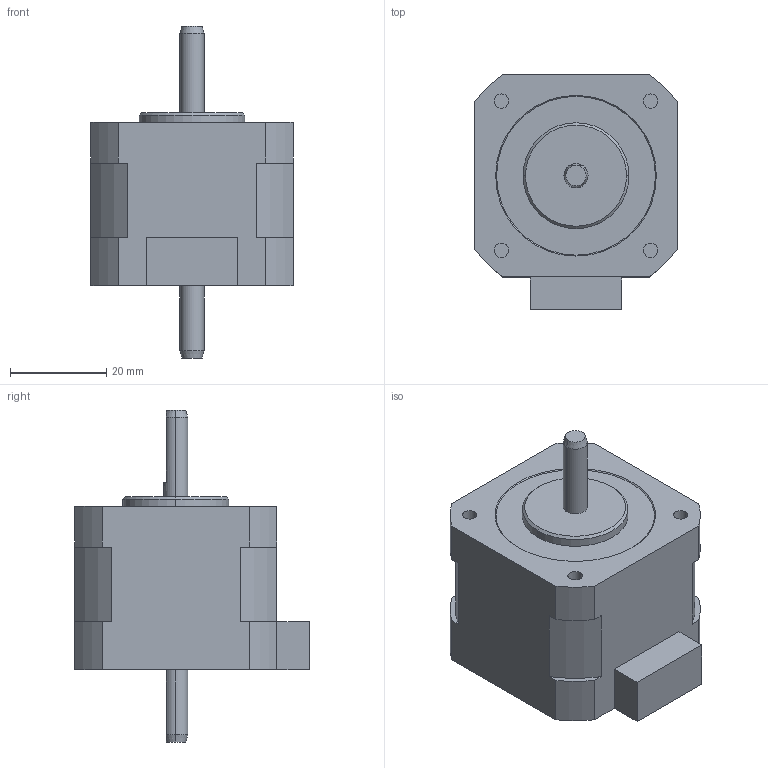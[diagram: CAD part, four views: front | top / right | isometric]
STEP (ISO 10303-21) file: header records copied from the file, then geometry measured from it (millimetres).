
FILE_DESCRIPTION (( 'STEP AP203' ), '1' );
FILE_NAME ('PMSA-U42D1D_3D.STEP', '2017-01-31T04:27:05', ( 'user01' ), ( '' ), 'SwSTEP 2.0', 'SolidWorks 2014', '' );
FILE_SCHEMA (( 'CONFIG_CONTROL_DESIGN' ));
Length unit declared in the file: millimetre
Products named in the file (1): PMSA-U42D1D_3D
Bounding box: 42 x 48.7 x 69 mm (x, y, z)
Volume: 59783.1 mm3; surface area: 9891.1 mm2
Topology: 1 solids, 1 shells, 66 faces, 162 edges, 106 vertices
Faces by surface type: plane 29, cylinder 27, cone 10
Entity records: 2063 total; most frequent: CARTESIAN_POINT 363, DIRECTION 360, ORIENTED_EDGE 324, EDGE_CURVE 162, AXIS2_PLACEMENT_3D 135, VERTEX_POINT 106, VECTOR 90, LINE 90
